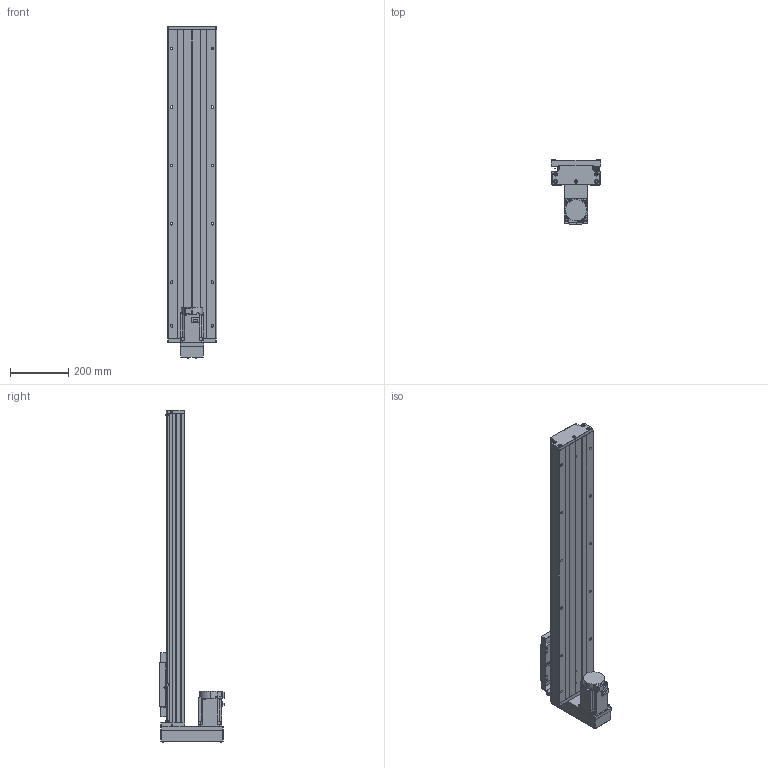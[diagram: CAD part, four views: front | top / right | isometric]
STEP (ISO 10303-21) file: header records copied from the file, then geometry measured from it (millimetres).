
FILE_DESCRIPTION (( 'STEP AP203' ), '1' );
FILE_NAME ('GTH17-800-BM-M75-C4.step', '2023-06-30T12:41:02', ( '微软用户' ), ( '微软中国' ), 'SwSTEP 2.0', 'SolidWorks 2020', '' );
FILE_SCHEMA (( 'CONFIG_CONTROL_DESIGN' ));
Length unit declared in the file: millimetre
Products named in the file (19): EE_SX911P_R; す晦芛蹟隊 M3℅5; CTHA60-016; HG-KN73J-S100; GTH17-002_GTH17-002; GBT 70.1-M3℅5; GBT 70.2-M4¡Á45_M4¡Á35; GTH17-004; GBT77-2000 M3×3; GTH17-015-2_CTHA86-015-2; GTH17-005; GBT 70.1-M6¡Á20_M6¡Á20; GTH17-033; GTH17-001_800; GB1155-6X6; GTH17-031; GTH17-800-BM-M75-C4; CTHA60-017; GBT 70.2-M3¡Á5_M3¡Á6
Assembly tree (58 placements, depth 2):
  GTH17-800-BM-M75-C4
    GTH17-001_800
    GTH17-002_GTH17-002
    GTH17-004
    GTH17-005
    GB1155-6X6  x2
    CTHA60-017  x3
    EE_SX911P_R  x3
    CTHA60-016  x2
    GBT 70.1-M3℅5  x6
    GBT77-2000 M3×3  x6
    GBT 70.1-M6¡Á20_M6¡Á20  x10
    GTH17-031
    GBT 70.2-M3¡Á5_M3¡Á6  x8
    す晦芛蹟隊 M3℅5  x6
    HG-KN73J-S100
    GBT 70.2-M4¡Á45_M4¡Á35  x4
    GTH17-015-2_CTHA86-015-2
    GTH17-033
Bounding box: 171 x 222.3 x 1138.2 mm (x, y, z)
Volume: 9446698.2 mm3; surface area: 1299246.5 mm2
Topology: 61 solids, 61 shells, 2449 faces, 5845 edges, 3619 vertices
Faces by surface type: plane 1310, cylinder 666, cone 297, torus 124, sphere 32, bspline 20
Entity records: 44738 total; most frequent: CARTESIAN_POINT 10366, DIRECTION 6481, ORIENTED_EDGE 6402, EDGE_CURVE 3201, AXIS2_PLACEMENT_3D 2212, VECTOR 2057, LINE 2057, VERTEX_POINT 2031
